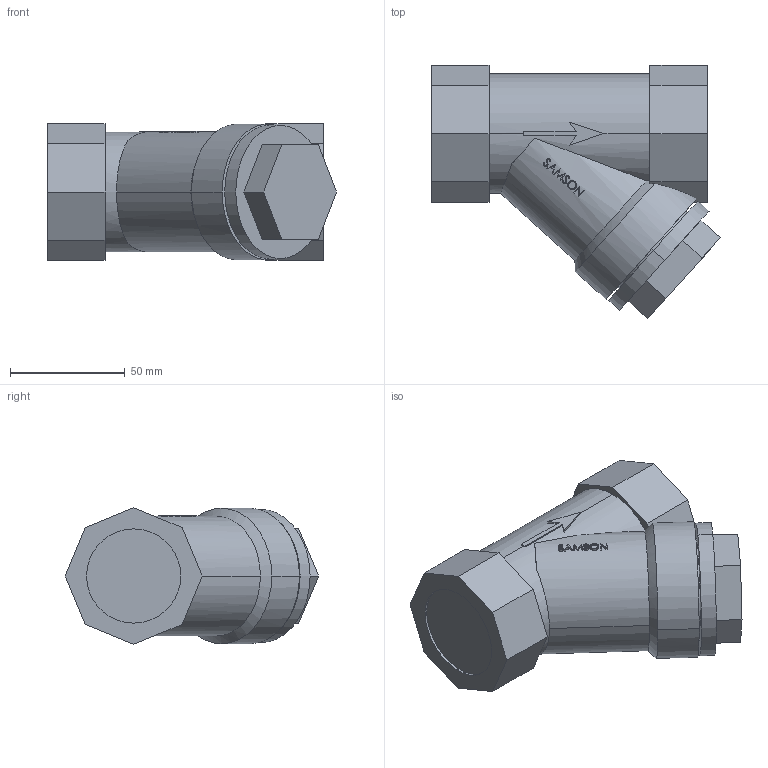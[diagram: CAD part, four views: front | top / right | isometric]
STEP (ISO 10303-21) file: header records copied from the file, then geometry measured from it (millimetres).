
FILE_DESCRIPTION (( 'STEP AP203' ), '1' );
FILE_NAME ('2601_1NI_DIN_G1z1-2_025_GTW-40-05_IGWD_std.STEP', '2010-05-25T08:04:37', ( '' ), ( '' ), 'SwSTEP 2.0', 'SolidWorks 2006303', '' );
FILE_SCHEMA (( 'CONFIG_CONTROL_DESIGN' ));
Length unit declared in the file: millimetre
Products named in the file (3): Gewindestopfen_G1z1-2_00700670_Standard; 2601_1NI_DIN_G1z1-2_025_GTW-40-05_IGWD_std; Geh2601_1NI_DIN_G1z1-2_025_GTW-40-05_IGWD_01014200_Standard
Assembly tree (2 placements, depth 2):
  2601_1NI_DIN_G1z1-2_025_GTW-40-05_IGWD_std
    Geh2601_1NI_DIN_G1z1-2_025_GTW-40-05_IGWD_01014200_Standard
    Gewindestopfen_G1z1-2_00700670_Standard
Bounding box: 125.69 x 110.26 x 59.53 mm (x, y, z)
Volume: 428727.4 mm3; surface area: 44411.7 mm2
Topology: 2 solids, 2 shells, 149 faces, 389 edges, 258 vertices
Faces by surface type: plane 88, bspline 38, cylinder 20, cone 3
Entity records: 6689 total; most frequent: CARTESIAN_POINT 3094, ORIENTED_EDGE 778, DIRECTION 527, EDGE_CURVE 389, VERTEX_POINT 258, VECTOR 217, LINE 217, EDGE_LOOP 163
